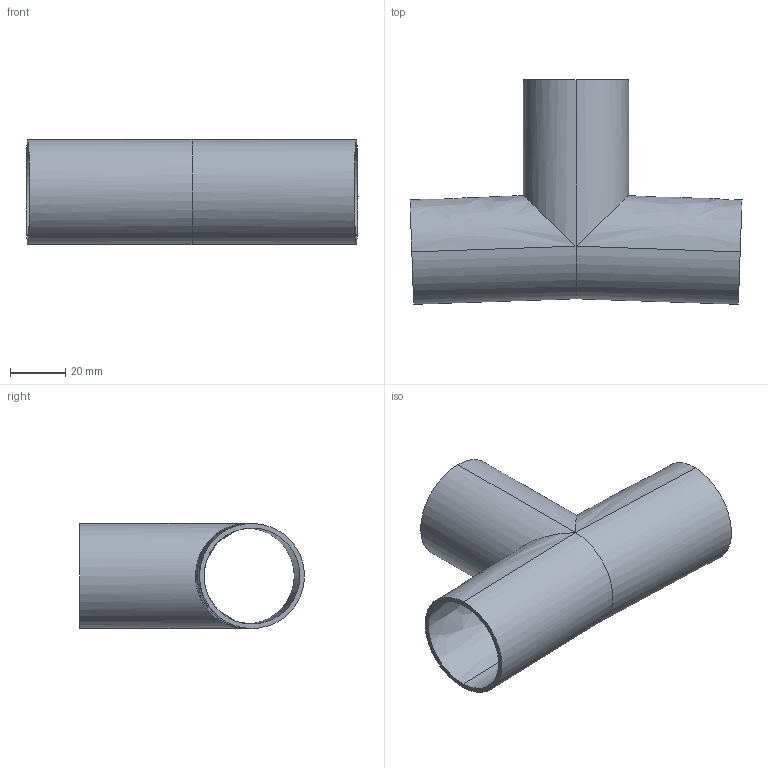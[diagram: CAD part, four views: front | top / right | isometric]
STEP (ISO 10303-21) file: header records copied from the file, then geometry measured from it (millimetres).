
FILE_DESCRIPTION (( 'STEP AP214' ), '1' );
FILE_NAME ('TE7WWW1766L1.5-...STEP', '2016-05-23T05:26:00', ( 'eran' ), ( '' ), 'SwSTEP 2.0', 'SolidWorks 2016', '' );
FILE_SCHEMA (( 'AUTOMOTIVE_DESIGN' ));
Length unit declared in the file: millimetre
Products named in the file (1): TE7WWW1766L1.5-..
Bounding box: 120.39 x 81.43 x 38.1 mm (x, y, z)
Volume: 29588.8 mm3; surface area: 36429.8 mm2
Topology: 1 solids, 1 shells, 15 faces, 30 edges, 16 vertices
Faces by surface type: bspline 8, cylinder 4, plane 3
Entity records: 1596 total; most frequent: CARTESIAN_POINT 1298, ORIENTED_EDGE 60, DIRECTION 40, EDGE_CURVE 30, EDGE_LOOP 18, VERTEX_POINT 16, ADVANCED_FACE 15, FACE_OUTER_BOUND 15
